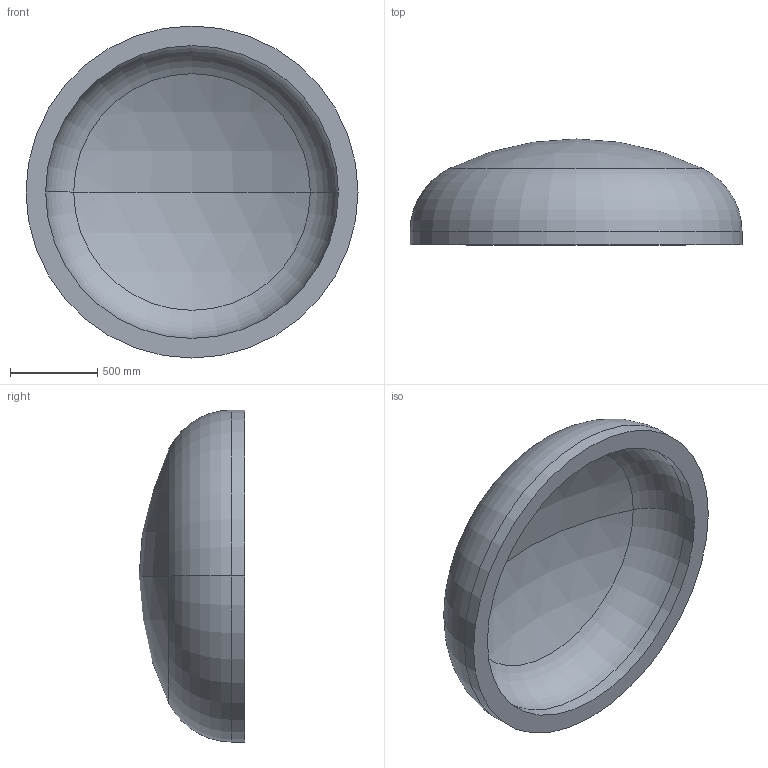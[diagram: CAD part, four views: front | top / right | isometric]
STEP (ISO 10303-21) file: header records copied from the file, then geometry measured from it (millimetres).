
FILE_DESCRIPTION (( 'STEP AP203' ), '1' );
FILE_NAME ('DIN 28013 Korbbogenform_-_Boden DIN 28013 - 1900 x 75 - I - s=112.step', '2016-07-01T13:29:11', ( '' ), ( '' ), 'SwSTEP 2.0', 'SolidWorks 2013', '' );
FILE_SCHEMA (( 'CONFIG_CONTROL_DESIGN' ));
Length unit declared in the file: millimetre
Products named in the file (1): DIN 28013 Korbbogenform_-_Boden DIN 28013 - 1900 x 75 - I - s=112
Bounding box: 1900 x 605.82 x 1900 mm (x, y, z)
Volume: 454379852.9 mm3; surface area: 8769318.7 mm2
Topology: 1 solids, 1 shells, 13 faces, 24 edges, 14 vertices
Faces by surface type: torus 4, cylinder 4, sphere 4, plane 1
Entity records: 407 total; most frequent: DIRECTION 72, CARTESIAN_POINT 52, ORIENTED_EDGE 48, AXIS2_PLACEMENT_3D 34, EDGE_CURVE 24, CIRCLE 20, EDGE_LOOP 14, VERTEX_POINT 14
